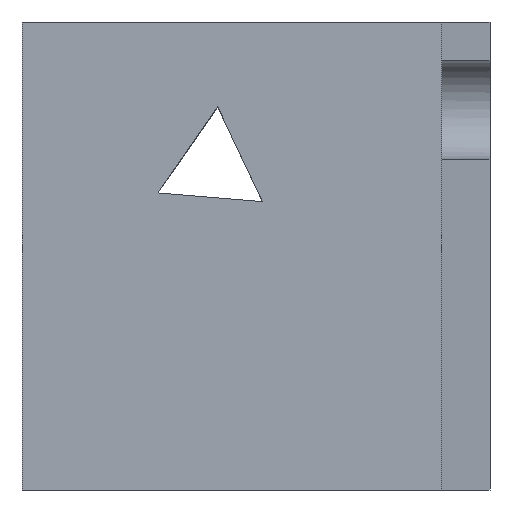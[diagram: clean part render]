
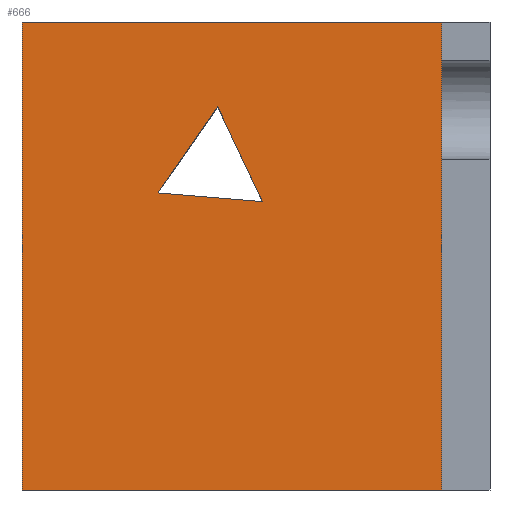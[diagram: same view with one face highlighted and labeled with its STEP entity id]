
A CAD part, left-side view. The second image highlights one B-rep face of the part: STEP entity #666.
In plain terms, the highlighted planar face has unit normal (-1, 0, 0).
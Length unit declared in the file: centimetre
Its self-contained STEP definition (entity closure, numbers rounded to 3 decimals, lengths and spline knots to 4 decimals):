
#1 = VERTEX_POINT ( 'NONE', #400 ) ;
#28 = CARTESIAN_POINT ( 'NONE',  ( 0., 709.3819, 634.6305 ) ) ;
#36 = CARTESIAN_POINT ( 'NONE',  ( 0., 709.3819, 634.6305 ) ) ;
#57 = FACE_OUTER_BOUND ( 'NONE', #1050, .T. ) ;
#58 = EDGE_LOOP ( 'NONE', ( #615, #399, #1334 ) ) ;
#67 = DIRECTION ( 'NONE',  ( 0., 0., -1. ) ) ;
#69 = CARTESIAN_POINT ( 'NONE',  ( 0., 581.7731, 818.6073 ) ) ;
#170 = LINE ( 'NONE', #822, #1488 ) ;
#185 = LINE ( 'NONE', #1147, #832 ) ;
#203 = CARTESIAN_POINT ( 'NONE',  ( 0., 486.249, 616.1065 ) ) ;
#209 = ORIENTED_EDGE ( 'NONE', *, *, #1609, .T. ) ;
#218 = ORIENTED_EDGE ( 'NONE', *, *, #1042, .T. ) ;
#219 = DIRECTION ( 'NONE',  ( 0., -0.57, 0.822 ) ) ;
#265 = EDGE_CURVE ( 'NONE', #393, #689, #185, .T. ) ;
#284 = LINE ( 'NONE', #28, #627 ) ;
#289 = CARTESIAN_POINT ( 'NONE',  ( 0., 486.249, 616.1065 ) ) ;
#296 = VERTEX_POINT ( 'NONE', #1114 ) ;
#302 = CARTESIAN_POINT ( 'NONE',  ( 0., 103.2516, 0. ) ) ;
#304 = ORIENTED_EDGE ( 'NONE', *, *, #1502, .F. ) ;
#313 = VERTEX_POINT ( 'NONE', #203 ) ;
#314 = DIRECTION ( 'NONE',  ( 1., 0., 0. ) ) ;
#326 = FACE_BOUND ( 'NONE', #58, .T. ) ;
#330 = EDGE_CURVE ( 'NONE', #617, #1325, #1251, .T. ) ;
#339 = DIRECTION ( 'NONE',  ( 0., -1., 0. ) ) ;
#393 = VERTEX_POINT ( 'NONE', #408 ) ;
#399 = ORIENTED_EDGE ( 'NONE', *, *, #1021, .T. ) ;
#400 = CARTESIAN_POINT ( 'NONE',  ( 0., 1000., 0. ) ) ;
#408 = CARTESIAN_POINT ( 'NONE',  ( 0., 1000., 1000. ) ) ;
#502 = LINE ( 'NONE', #858, #1473 ) ;
#518 = ORIENTED_EDGE ( 'NONE', *, *, #265, .F. ) ;
#553 = DIRECTION ( 'NONE',  ( 0., -0.427, -0.904 ) ) ;
#567 = EDGE_CURVE ( 'NONE', #313, #617, #284, .T. ) ;
#615 = ORIENTED_EDGE ( 'NONE', *, *, #330, .T. ) ;
#617 = VERTEX_POINT ( 'NONE', #36 ) ;
#627 = VECTOR ( 'NONE', #1619, 100. ) ;
#666 = ADVANCED_FACE ( 'NONE', ( #326, #57 ), #979, .F. ) ;
#689 = VERTEX_POINT ( 'NONE', #1386 ) ;
#750 = CARTESIAN_POINT ( 'NONE',  ( 0., 1000., 1000. ) ) ;
#822 = CARTESIAN_POINT ( 'NONE',  ( 0., 1000., 1000. ) ) ;
#832 = VECTOR ( 'NONE', #339, 100. ) ;
#858 = CARTESIAN_POINT ( 'NONE',  ( 0., 1000., 0. ) ) ;
#935 = VECTOR ( 'NONE', #1604, 100. ) ;
#964 = DIRECTION ( 'NONE',  ( 0., -1., 0. ) ) ;
#976 = AXIS2_PLACEMENT_3D ( 'NONE', #750, #314, #67 ) ;
#979 = PLANE ( 'NONE',  #976 ) ;
#1021 = EDGE_CURVE ( 'NONE', #1325, #313, #1353, .T. ) ;
#1042 = EDGE_CURVE ( 'NONE', #393, #1, #170, .T. ) ;
#1050 = EDGE_LOOP ( 'NONE', ( #209, #304, #518, #218 ) ) ;
#1067 = LINE ( 'NONE', #302, #935 ) ;
#1114 = CARTESIAN_POINT ( 'NONE',  ( 0., 103.2516, 0. ) ) ;
#1147 = CARTESIAN_POINT ( 'NONE',  ( 0., 1000., 1000. ) ) ;
#1148 = VECTOR ( 'NONE', #219, 100. ) ;
#1178 = CARTESIAN_POINT ( 'NONE',  ( 0., 581.7731, 818.6073 ) ) ;
#1251 = LINE ( 'NONE', #69, #1148 ) ;
#1283 = VECTOR ( 'NONE', #553, 100. ) ;
#1325 = VERTEX_POINT ( 'NONE', #1178 ) ;
#1334 = ORIENTED_EDGE ( 'NONE', *, *, #567, .T. ) ;
#1342 = DIRECTION ( 'NONE',  ( 0., 0., -1. ) ) ;
#1353 = LINE ( 'NONE', #289, #1283 ) ;
#1386 = CARTESIAN_POINT ( 'NONE',  ( 0., 103.2516, 1000. ) ) ;
#1473 = VECTOR ( 'NONE', #964, 100. ) ;
#1488 = VECTOR ( 'NONE', #1342, 100. ) ;
#1502 = EDGE_CURVE ( 'NONE', #689, #296, #1067, .T. ) ;
#1604 = DIRECTION ( 'NONE',  ( 0., 0., -1. ) ) ;
#1609 = EDGE_CURVE ( 'NONE', #1, #296, #502, .T. ) ;
#1619 = DIRECTION ( 'NONE',  ( 0., 0.997, 0.083 ) ) ;
